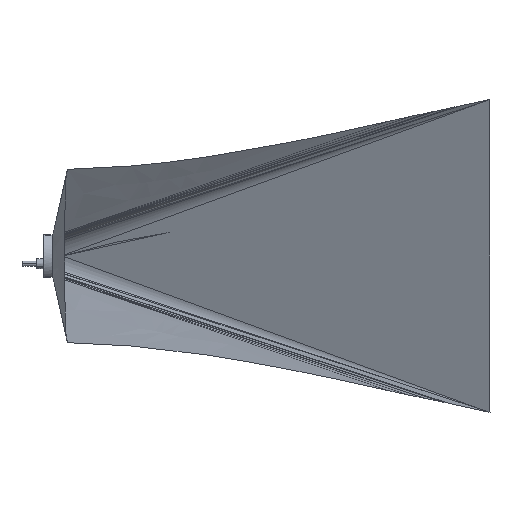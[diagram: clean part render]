
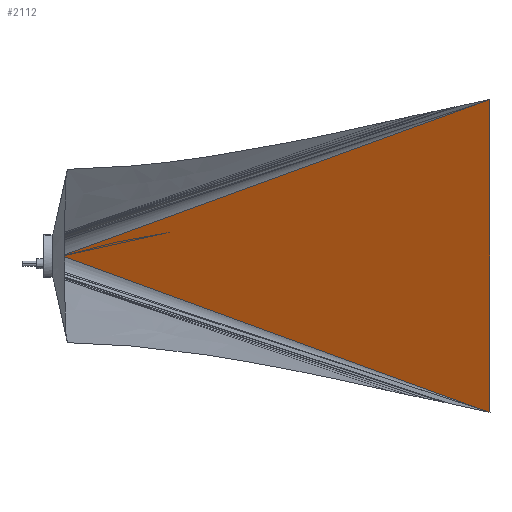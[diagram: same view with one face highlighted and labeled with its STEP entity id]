
A CAD part, front view. The second image highlights one B-rep face of the part: STEP entity #2112.
In plain terms, the highlighted free-form (B-spline) face has degree [5, 1] with [6, 2] control points.
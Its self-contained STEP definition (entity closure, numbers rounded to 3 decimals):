
#283=CARTESIAN_POINT('Vertex',(411.22,-200.,144.172)) ;
#1605=CARTESIAN_POINT('Control Point',(16.779,27.276,0.)) ;
#1606=CARTESIAN_POINT('Control Point',(411.22,-200.,144.172)) ;
#1607=CARTESIAN_POINT('Vertex',(16.779,27.276,0.)) ;
#2081=CARTESIAN_POINT('Control Point',(16.779,27.276,0.)) ;
#2082=CARTESIAN_POINT('Control Point',(411.22,-200.,144.172)) ;
#2083=CARTESIAN_POINT('Control Point',(16.779,27.276,0.)) ;
#2084=CARTESIAN_POINT('Control Point',(411.22,-200.,86.503)) ;
#2085=CARTESIAN_POINT('Control Point',(16.779,27.276,0.)) ;
#2086=CARTESIAN_POINT('Control Point',(411.22,-200.,28.834)) ;
#2087=CARTESIAN_POINT('Control Point',(16.779,27.276,0.)) ;
#2088=CARTESIAN_POINT('Control Point',(411.22,-200.,-28.834)) ;
#2089=CARTESIAN_POINT('Control Point',(16.779,27.276,0.)) ;
#2090=CARTESIAN_POINT('Control Point',(411.22,-200.,-86.503)) ;
#2091=CARTESIAN_POINT('Control Point',(16.779,27.276,0.)) ;
#2092=CARTESIAN_POINT('Control Point',(411.22,-200.,-144.172)) ;
#2094=CARTESIAN_POINT('Control Point',(16.779,27.276,0.)) ;
#2095=CARTESIAN_POINT('Control Point',(411.22,-200.,-144.172)) ;
#2096=CARTESIAN_POINT('Vertex',(411.22,-200.,-144.172)) ;
#2100=CARTESIAN_POINT('Control Point',(411.22,-200.,144.172)) ;
#2101=CARTESIAN_POINT('Control Point',(411.22,-200.,86.503)) ;
#2102=CARTESIAN_POINT('Control Point',(411.22,-200.,28.834)) ;
#2103=CARTESIAN_POINT('Control Point',(411.22,-200.,-28.834)) ;
#2104=CARTESIAN_POINT('Control Point',(411.22,-200.,-86.503)) ;
#2105=CARTESIAN_POINT('Control Point',(411.22,-200.,-144.172)) ;
#2108=ORIENTED_EDGE('',*,*,#2098,.T.) ;
#2109=ORIENTED_EDGE('',*,*,#2106,.F.) ;
#2110=ORIENTED_EDGE('',*,*,#1609,.F.) ;
#2112=ADVANCED_FACE('Geometric Visibility Cone / RH / Side Direction Indicator (CAT5)',(#2111),#2080,.T.) ;
#1604=B_SPLINE_CURVE_WITH_KNOTS('',1,(#1605,#1606),.UNSPECIFIED.,.F.,.U.,(2,2),(0.,470.281),.UNSPECIFIED.) ;
#2093=B_SPLINE_CURVE_WITH_KNOTS('',1,(#2094,#2095),.UNSPECIFIED.,.F.,.U.,(2,2),(0.,470.281),.UNSPECIFIED.) ;
#2099=B_SPLINE_CURVE_WITH_KNOTS('',5,(#2100,#2101,#2102,#2103,#2104,#2105),.UNSPECIFIED.,.F.,.U.,(6,6),(0.,203.891),.UNSPECIFIED.) ;
#2080=B_SPLINE_SURFACE_WITH_KNOTS('',5,1,((#2081,#2082),(#2083,#2084),(#2085,#2086),(#2087,#2088),(#2089,#2090),(#2091,#2092)),.UNSPECIFIED.,.F.,.F.,.U.,(6,6),(2,2),(0.,203.891),(0.,470.281),.UNSPECIFIED.) ;
#1609=EDGE_CURVE('',#1608,#284,#1604,.T.) ;
#2098=EDGE_CURVE('',#1608,#2097,#2093,.T.) ;
#2106=EDGE_CURVE('',#284,#2097,#2099,.T.) ;
#2107=EDGE_LOOP('',(#2108,#2109,#2110)) ;
#2111=FACE_OUTER_BOUND('',#2107,.T.) ;
#284=VERTEX_POINT('',#283) ;
#1608=VERTEX_POINT('',#1607) ;
#2097=VERTEX_POINT('',#2096) ;
